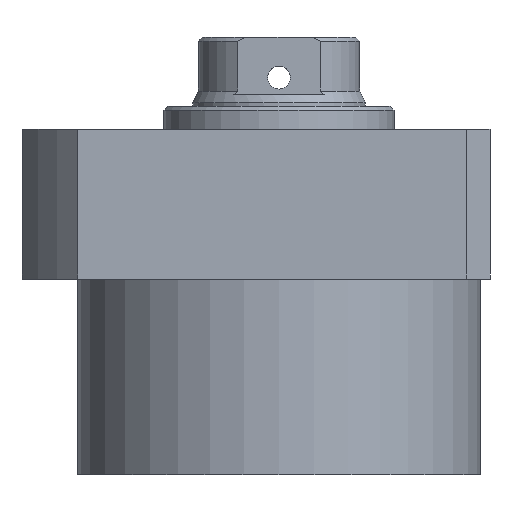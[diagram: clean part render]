
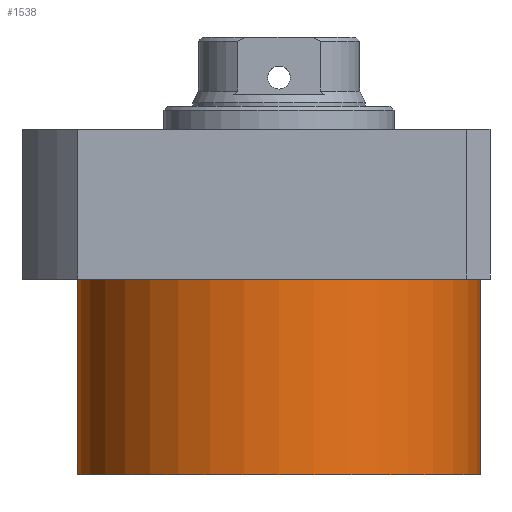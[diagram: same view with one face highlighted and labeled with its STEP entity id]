
A CAD part, front view. The second image highlights one B-rep face of the part: STEP entity #1538.
In plain terms, the highlighted cylindrical face has radius 52.5 mm (diameter 105 mm), a partial arc.
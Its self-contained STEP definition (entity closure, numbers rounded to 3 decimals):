
#76 = LINE ( 'NONE', #1350, #897 ) ;
#91 = CARTESIAN_POINT ( 'NONE',  ( 52.5, 0., -70.5 ) ) ;
#200 = VERTEX_POINT ( 'NONE', #1455 ) ;
#239 = AXIS2_PLACEMENT_3D ( 'NONE', #978, #650, #491 ) ;
#256 = FACE_OUTER_BOUND ( 'NONE', #1269, .T. ) ;
#336 = EDGE_CURVE ( 'NONE', #1516, #200, #1501, .T. ) ;
#343 = DIRECTION ( 'NONE',  ( 0., 0., 1. ) ) ;
#462 = DIRECTION ( 'NONE',  ( 0., 0., -1. ) ) ;
#491 = DIRECTION ( 'NONE',  ( 1., 0., 0. ) ) ;
#502 = ORIENTED_EDGE ( 'NONE', *, *, #1327, .T. ) ;
#574 = ORIENTED_EDGE ( 'NONE', *, *, #1905, .T. ) ;
#650 = DIRECTION ( 'NONE',  ( 0., 0., -1. ) ) ;
#668 = CARTESIAN_POINT ( 'NONE',  ( -52.5, 0., -70.5 ) ) ;
#760 = DIRECTION ( 'NONE',  ( 1., 0., 0. ) ) ;
#897 = VECTOR ( 'NONE', #343, 1000. ) ;
#953 = ORIENTED_EDGE ( 'NONE', *, *, #1495, .F. ) ;
#978 = CARTESIAN_POINT ( 'NONE',  ( 0., 0., -19.5 ) ) ;
#1030 = VERTEX_POINT ( 'NONE', #1204 ) ;
#1128 = CIRCLE ( 'NONE', #239, 52.5 ) ;
#1151 = DIRECTION ( 'NONE',  ( -1., 0., 0. ) ) ;
#1152 = VECTOR ( 'NONE', #1241, 1000. ) ;
#1204 = CARTESIAN_POINT ( 'NONE',  ( -52.5, 0., -19.5 ) ) ;
#1241 = DIRECTION ( 'NONE',  ( 0., 0., 1. ) ) ;
#1257 = DIRECTION ( 'NONE',  ( 0., 0., 1. ) ) ;
#1269 = EDGE_LOOP ( 'NONE', ( #953, #1300, #574, #502 ) ) ;
#1300 = ORIENTED_EDGE ( 'NONE', *, *, #336, .F. ) ;
#1323 = CARTESIAN_POINT ( 'NONE',  ( 52.5, 0., -19.5 ) ) ;
#1327 = EDGE_CURVE ( 'NONE', #1370, #1030, #1128, .T. ) ;
#1350 = CARTESIAN_POINT ( 'NONE',  ( 52.5, 0., -70.5 ) ) ;
#1370 = VERTEX_POINT ( 'NONE', #1323 ) ;
#1455 = CARTESIAN_POINT ( 'NONE',  ( -52.5, 0., -70.5 ) ) ;
#1484 = CARTESIAN_POINT ( 'NONE',  ( 0., 0., -70.5 ) ) ;
#1495 = EDGE_CURVE ( 'NONE', #200, #1030, #1605, .T. ) ;
#1501 = CIRCLE ( 'NONE', #1895, 52.5 ) ;
#1516 = VERTEX_POINT ( 'NONE', #91 ) ;
#1538 = ADVANCED_FACE ( 'NONE', ( #256 ), #1834, .T. ) ;
#1605 = LINE ( 'NONE', #668, #1152 ) ;
#1743 = AXIS2_PLACEMENT_3D ( 'NONE', #2079, #1257, #760 ) ;
#1834 = CYLINDRICAL_SURFACE ( 'NONE', #1743, 52.5 ) ;
#1895 = AXIS2_PLACEMENT_3D ( 'NONE', #1484, #462, #1151 ) ;
#1905 = EDGE_CURVE ( 'NONE', #1516, #1370, #76, .T. ) ;
#2079 = CARTESIAN_POINT ( 'NONE',  ( 0., 0., -70.5 ) ) ;
